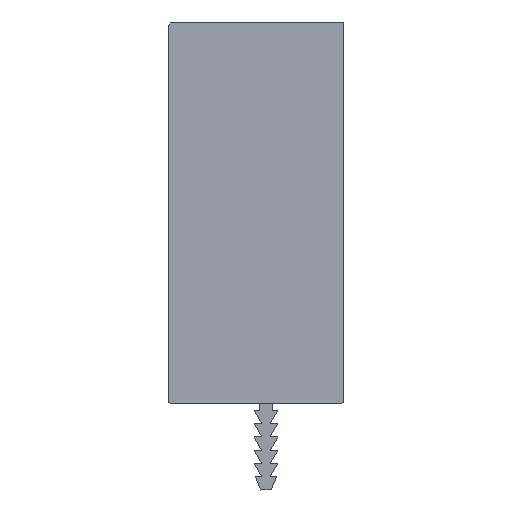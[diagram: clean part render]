
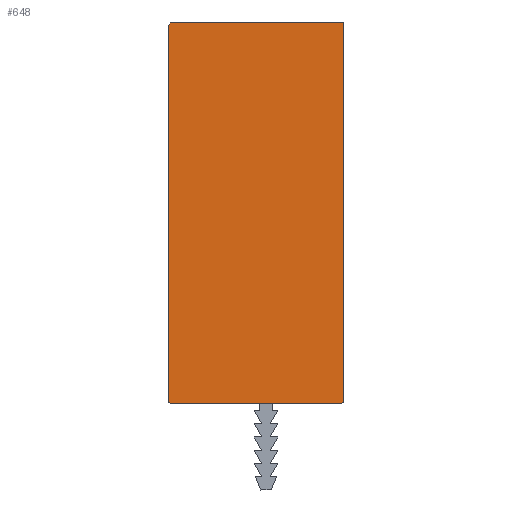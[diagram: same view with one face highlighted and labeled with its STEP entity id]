
A CAD part, left-side view. The second image highlights one B-rep face of the part: STEP entity #648.
In plain terms, the highlighted planar face has unit normal (-1, 0, 0).
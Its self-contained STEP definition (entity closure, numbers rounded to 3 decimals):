
#426 = EDGE_CURVE( '', #950, #808, #1205, .T. );
#436 = VERTEX_POINT( '', #1216 );
#522 = EDGE_CURVE( '', #686, #436, #1307, .T. );
#542 = VERTEX_POINT( '', #1329 );
#562 = VERTEX_POINT( '', #1350 );
#626 = EDGE_CURVE( '', #904, #686, #1417, .T. );
#648 = ADVANCED_FACE( '', ( #1439 ), #1440, .F. );
#650 = VERTEX_POINT( '', #1442 );
#686 = VERTEX_POINT( '', #1483 );
#744 = EDGE_CURVE( '', #808, #562, #1546, .T. );
#808 = VERTEX_POINT( '', #1618 );
#904 = VERTEX_POINT( '', #1724 );
#946 = EDGE_CURVE( '', #542, #650, #1771, .T. );
#950 = VERTEX_POINT( '', #1775 );
#972 = EDGE_CURVE( '', #562, #542, #1798, .T. );
#1072 = EDGE_CURVE( '', #650, #904, #1908, .T. );
#1084 = EDGE_CURVE( '', #436, #950, #1921, .T. );
#1205 = LINE( '', #2051, #2052 );
#1216 = CARTESIAN_POINT( '', ( 0., 11.75, 44. ) );
#1307 = LINE( '', #2202, #2203 );
#1329 = CARTESIAN_POINT( '', ( 0., -9.35, -1.3 ) );
#1350 = CARTESIAN_POINT( '', ( 0., -9.35, 44.3 ) );
#1417 = CIRCLE( '', #2364, 0.2 );
#1439 = FACE_OUTER_BOUND( '', #2396, .T. );
#1440 = PLANE( '', #2397 );
#1442 = CARTESIAN_POINT( '', ( 0., -9.15, -1.5 ) );
#1483 = CARTESIAN_POINT( '', ( 0., 11.75, -1.3 ) );
#1546 = CIRCLE( '', #2550, 0.2 );
#1618 = CARTESIAN_POINT( '', ( 0., -9.15, 44.5 ) );
#1724 = CARTESIAN_POINT( '', ( 0., 11.55, -1.5 ) );
#1771 = CIRCLE( '', #2853, 0.2 );
#1775 = CARTESIAN_POINT( '', ( 0., 11.25, 44.5 ) );
#1798 = LINE( '', #2891, #2892 );
#1908 = LINE( '', #3040, #3041 );
#1921 = CIRCLE( '', #3058, 0.5 );
#2051 = CARTESIAN_POINT( '', ( 0., 11.25, 44.5 ) );
#2052 = VECTOR( '', #3215, 1. );
#2202 = CARTESIAN_POINT( '', ( 0., 11.75, -1.3 ) );
#2203 = VECTOR( '', #3297, 1. );
#2364 = AXIS2_PLACEMENT_3D( '', #3407, #3408, #3409 );
#2396 = EDGE_LOOP( '', ( #3416, #3417, #3418, #3419, #3420, #3421, #3422, #3423 ) );
#2397 = AXIS2_PLACEMENT_3D( '', #3424, #3425, #3426 );
#2550 = AXIS2_PLACEMENT_3D( '', #3543, #3544, #3545 );
#2853 = AXIS2_PLACEMENT_3D( '', #3807, #3808, #3809 );
#2891 = CARTESIAN_POINT( '', ( 0., -9.35, 44.3 ) );
#2892 = VECTOR( '', #3823, 1. );
#3040 = CARTESIAN_POINT( '', ( 0., -9.15, -1.5 ) );
#3041 = VECTOR( '', #3943, 1. );
#3058 = AXIS2_PLACEMENT_3D( '', #3980, #3981, #3982 );
#3215 = DIRECTION( '', ( 0., -1., 0. ) );
#3297 = DIRECTION( '', ( 0., 0., 1. ) );
#3407 = CARTESIAN_POINT( '', ( 0., 11.55, -1.3 ) );
#3408 = DIRECTION( '', ( 1., 0., 0. ) );
#3409 = DIRECTION( '', ( 0., 0., -1. ) );
#3416 = ORIENTED_EDGE( '', *, *, #426, .F. );
#3417 = ORIENTED_EDGE( '', *, *, #1084, .F. );
#3418 = ORIENTED_EDGE( '', *, *, #522, .F. );
#3419 = ORIENTED_EDGE( '', *, *, #626, .F. );
#3420 = ORIENTED_EDGE( '', *, *, #1072, .F. );
#3421 = ORIENTED_EDGE( '', *, *, #946, .F. );
#3422 = ORIENTED_EDGE( '', *, *, #972, .F. );
#3423 = ORIENTED_EDGE( '', *, *, #744, .F. );
#3424 = CARTESIAN_POINT( '', ( 0., 0., 0. ) );
#3425 = DIRECTION( '', ( 1., 0., 0. ) );
#3426 = DIRECTION( '', ( 0., 0., -1. ) );
#3543 = CARTESIAN_POINT( '', ( 0., -9.15, 44.3 ) );
#3544 = DIRECTION( '', ( 1., 0., 0. ) );
#3545 = DIRECTION( '', ( 0., 0., 1. ) );
#3807 = CARTESIAN_POINT( '', ( 0., -9.15, -1.3 ) );
#3808 = DIRECTION( '', ( 1., 0., 0. ) );
#3809 = DIRECTION( '', ( 0., -1., 0. ) );
#3823 = DIRECTION( '', ( 0., 0., -1. ) );
#3943 = DIRECTION( '', ( 0., 1., 0. ) );
#3980 = CARTESIAN_POINT( '', ( 0., 11.25, 44. ) );
#3981 = DIRECTION( '', ( 1., 0., 0. ) );
#3982 = DIRECTION( '', ( 0., 1., 0. ) );
